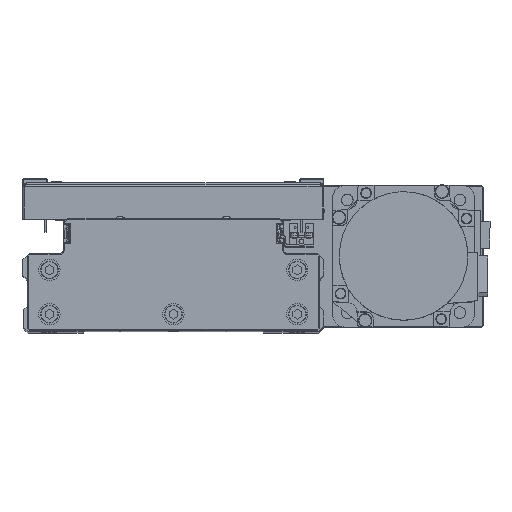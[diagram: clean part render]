
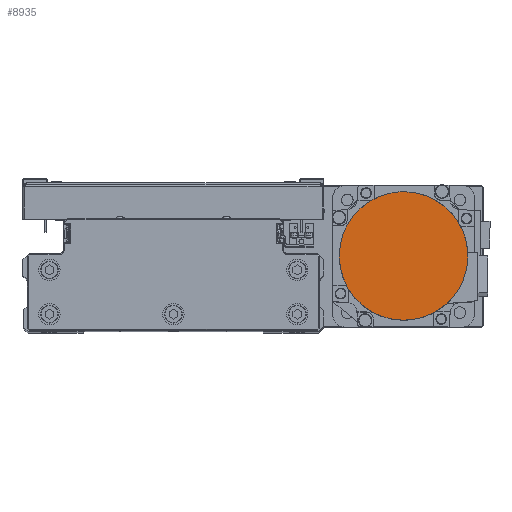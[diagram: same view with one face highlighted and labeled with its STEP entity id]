
A CAD part, top view. The second image highlights one B-rep face of the part: STEP entity #8935.
In plain terms, the highlighted planar face has unit normal (0, 0, 1) as drawn and (0, 0, -1) by its records, which use the part's own axes.
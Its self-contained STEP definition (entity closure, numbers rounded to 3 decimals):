
#4 = CARTESIAN_POINT ( 'NONE',  ( -31.502, 18.192, -122.2 ) ) ;
#322 = CARTESIAN_POINT ( 'NONE',  ( -16.086, -32.628, -122.2 ) ) ;
#855 = B_SPLINE_CURVE_WITH_KNOTS ( 'NONE', 3,
 ( #26877, #40418, #10014, #23560, #37101, #6688, #20232, #33753, #3346, #16891, #30417, #4, #13558, #27099, #40648, #10239, #23781, #37318 ),
 .UNSPECIFIED., .F., .F.,
 ( 4, 2, 2, 2, 2, 2, 2, 2, 4 ),
 ( 0., 0.125, 0.25, 0.375, 0.5, 0.625, 0.75, 0.875, 1. ),
 .UNSPECIFIED. ) ;
#3346 = CARTESIAN_POINT ( 'NONE',  ( -23.988, 27.348, -122.2 ) ) ;
#3662 = CARTESIAN_POINT ( 'NONE',  ( -23.988, -27.348, -122.2 ) ) ;
#3936 = CARTESIAN_POINT ( 'NONE',  ( -36.3, 0., -122.2 ) ) ;
#5424 = B_SPLINE_CURVE_WITH_KNOTS ( 'NONE', 3,
 ( #13657, #27190, #40742, #10336, #23889, #37426, #7020, #20559, #34074, #3662, #17212, #30734, #322, #13875, #27421, #40977, #10561, #24101 ),
 .UNSPECIFIED., .F., .F.,
 ( 4, 2, 2, 2, 2, 2, 2, 2, 4 ),
 ( 0., 0.125, 0.25, 0.375, 0.5, 0.625, 0.75, 0.875, 1. ),
 .UNSPECIFIED. ) ;
#6626 = DIRECTION ( 'NONE',  ( 0., 0., 1. ) ) ;
#6688 = CARTESIAN_POINT ( 'NONE',  ( -16.086, 32.628, -122.2 ) ) ;
#7020 = CARTESIAN_POINT ( 'NONE',  ( -31.502, -18.192, -122.2 ) ) ;
#7451 = CIRCLE ( 'NONE', #13113, 36.3 ) ;
#8036 = CIRCLE ( 'NONE', #32827, 36.3 ) ;
#8289 = CARTESIAN_POINT ( 'NONE',  ( 0., 0., -122.2 ) ) ;
#8432 = VERTEX_POINT ( 'NONE', #24556 ) ;
#8935 = ADVANCED_FACE ( 'NONE', ( #25162 ), #38692, .F. ) ;
#9403 = VERTEX_POINT ( 'NONE', #30579 ) ;
#10014 = CARTESIAN_POINT ( 'NONE',  ( -4.752, 36.066, -122.2 ) ) ;
#10239 = CARTESIAN_POINT ( 'NONE',  ( -36.066, 4.752, -122.2 ) ) ;
#10336 = CARTESIAN_POINT ( 'NONE',  ( -35.139, -9.412, -122.2 ) ) ;
#10561 = CARTESIAN_POINT ( 'NONE',  ( -2.376, -36.3, -122.2 ) ) ;
#11121 = CARTESIAN_POINT ( 'NONE',  ( 0., 0., -122.2 ) ) ;
#13113 = AXIS2_PLACEMENT_3D ( 'NONE', #11121, #24663, #38205 ) ;
#13558 = CARTESIAN_POINT ( 'NONE',  ( -32.628, 16.086, -122.2 ) ) ;
#13657 = CARTESIAN_POINT ( 'NONE',  ( -36.3, 0., -122.2 ) ) ;
#13875 = CARTESIAN_POINT ( 'NONE',  ( -11.696, -34.446, -122.2 ) ) ;
#15049 = ORIENTED_EDGE ( 'NONE', *, *, #21897, .F. ) ;
#15288 = CARTESIAN_POINT ( 'NONE',  ( 36.3, 0., -122.2 ) ) ;
#16891 = CARTESIAN_POINT ( 'NONE',  ( -27.348, 23.988, -122.2 ) ) ;
#17212 = CARTESIAN_POINT ( 'NONE',  ( -22.143, -28.862, -122.2 ) ) ;
#19169 = VERTEX_POINT ( 'NONE', #3936 ) ;
#19721 = AXIS2_PLACEMENT_3D ( 'NONE', #8289, #21839, #35353 ) ;
#20167 = DIRECTION ( 'NONE',  ( -1., 0., 0. ) ) ;
#20232 = CARTESIAN_POINT ( 'NONE',  ( -18.192, 31.502, -122.2 ) ) ;
#20559 = CARTESIAN_POINT ( 'NONE',  ( -28.862, -22.143, -122.2 ) ) ;
#21839 = DIRECTION ( 'NONE',  ( 0., 0., 1. ) ) ;
#21897 = EDGE_CURVE ( 'NONE', #9403, #19169, #855, .T. ) ;
#23560 = CARTESIAN_POINT ( 'NONE',  ( -9.412, 35.139, -122.2 ) ) ;
#23781 = CARTESIAN_POINT ( 'NONE',  ( -36.3, 2.376, -122.2 ) ) ;
#23889 = CARTESIAN_POINT ( 'NONE',  ( -34.446, -11.696, -122.2 ) ) ;
#24101 = CARTESIAN_POINT ( 'NONE',  ( 0., -36.3, -122.2 ) ) ;
#24556 = CARTESIAN_POINT ( 'NONE',  ( 0., -36.3, -122.2 ) ) ;
#24577 = EDGE_CURVE ( 'NONE', #8432, #33397, #7451, .T. ) ;
#24663 = DIRECTION ( 'NONE',  ( 0., 0., 1. ) ) ;
#25162 = FACE_OUTER_BOUND ( 'NONE', #28820, .T. ) ;
#26877 = CARTESIAN_POINT ( 'NONE',  ( 0., 36.3, -122.2 ) ) ;
#27099 = CARTESIAN_POINT ( 'NONE',  ( -34.446, 11.696, -122.2 ) ) ;
#27190 = CARTESIAN_POINT ( 'NONE',  ( -36.3, -2.376, -122.2 ) ) ;
#27421 = CARTESIAN_POINT ( 'NONE',  ( -9.412, -35.139, -122.2 ) ) ;
#28111 = ORIENTED_EDGE ( 'NONE', *, *, #24577, .F. ) ;
#28820 = EDGE_LOOP ( 'NONE', ( #28111, #33581, #15049, #33167 ) ) ;
#30417 = CARTESIAN_POINT ( 'NONE',  ( -28.862, 22.143, -122.2 ) ) ;
#30579 = CARTESIAN_POINT ( 'NONE',  ( 0., 36.3, -122.2 ) ) ;
#30734 = CARTESIAN_POINT ( 'NONE',  ( -18.192, -31.502, -122.2 ) ) ;
#32827 = AXIS2_PLACEMENT_3D ( 'NONE', #37035, #6626, #20167 ) ;
#33167 = ORIENTED_EDGE ( 'NONE', *, *, #42424, .F. ) ;
#33397 = VERTEX_POINT ( 'NONE', #15288 ) ;
#33581 = ORIENTED_EDGE ( 'NONE', *, *, #41114, .F. ) ;
#33753 = CARTESIAN_POINT ( 'NONE',  ( -22.143, 28.862, -122.2 ) ) ;
#34074 = CARTESIAN_POINT ( 'NONE',  ( -27.348, -23.988, -122.2 ) ) ;
#35353 = DIRECTION ( 'NONE',  ( 1., 0., 0. ) ) ;
#37035 = CARTESIAN_POINT ( 'NONE',  ( 0., 0., -122.2 ) ) ;
#37101 = CARTESIAN_POINT ( 'NONE',  ( -11.696, 34.446, -122.2 ) ) ;
#37318 = CARTESIAN_POINT ( 'NONE',  ( -36.3, 0., -122.2 ) ) ;
#37426 = CARTESIAN_POINT ( 'NONE',  ( -32.628, -16.086, -122.2 ) ) ;
#38205 = DIRECTION ( 'NONE',  ( -1., 0., 0. ) ) ;
#38692 = PLANE ( 'NONE',  #19721 ) ;
#40418 = CARTESIAN_POINT ( 'NONE',  ( -2.376, 36.3, -122.2 ) ) ;
#40648 = CARTESIAN_POINT ( 'NONE',  ( -35.139, 9.412, -122.2 ) ) ;
#40742 = CARTESIAN_POINT ( 'NONE',  ( -36.066, -4.752, -122.2 ) ) ;
#40977 = CARTESIAN_POINT ( 'NONE',  ( -4.752, -36.066, -122.2 ) ) ;
#41114 = EDGE_CURVE ( 'NONE', #19169, #8432, #5424, .T. ) ;
#42424 = EDGE_CURVE ( 'NONE', #33397, #9403, #8036, .T. ) ;
